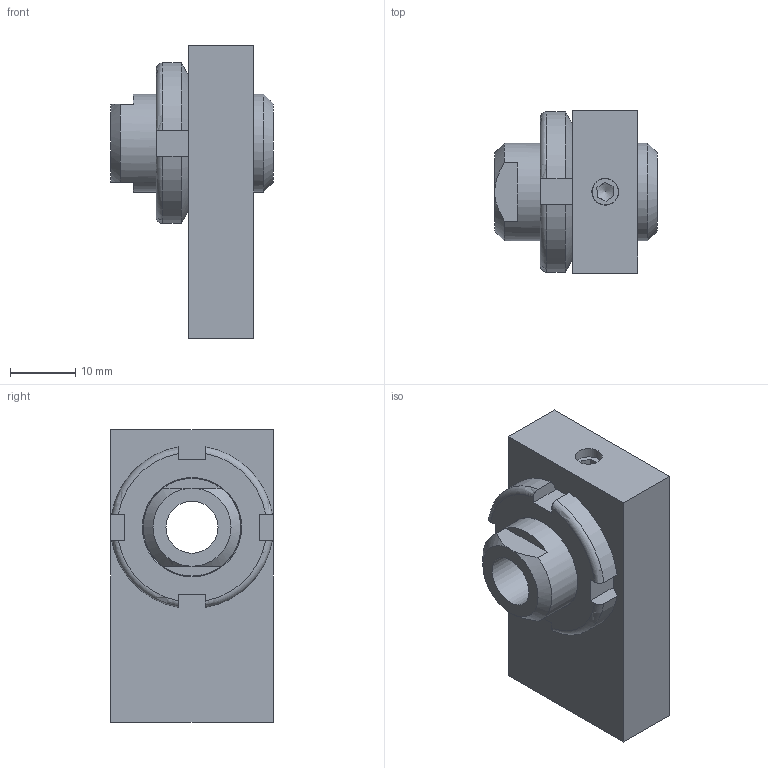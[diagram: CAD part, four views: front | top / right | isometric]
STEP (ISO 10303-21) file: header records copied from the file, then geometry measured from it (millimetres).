
FILE_DESCRIPTION(/* description */ (''),/* implementation_level */ '2;1');
FILE_NAME(/* name */ 'C:\Local Work Area\Progetti\AP\CALIBRI\03 Portacomparatore\03.55.stp',/* time_stamp */ '2015-04-01T09:22:07+02:00',/* author */ ('CAD5'),/* organization */ (''),/* preprocessor_version */ 'ST-DEVELOPER v15.2',/* originating_system */ 'Autodesk Inventor 2014',/* authorisation */ '');
FILE_SCHEMA (('AUTOMOTIVE_DESIGN { 1 0 10303 214 3 1 1 }'));
Length unit declared in the file: millimetre
Products named in the file (5): 03.57A; 03.56; Ghiera SKF M15x1 KM_2; VITE STEI M5x6 UNI5923; 03.55
Bounding box: 25 x 25 x 45 mm (x, y, z)
Volume: 13733.6 mm3; surface area: 7319.1 mm2
Topology: 4 solids, 4 shells, 64 faces, 160 edges, 104 vertices
Faces by surface type: plane 34, cone 15, cylinder 11, torus 4
Full cylindrical faces by diameter (mm): 4.134 x1, 4.917 x1, 5 x1, 8 x1, 13.917 x1, 15 x2
Entity records: 1958 total; most frequent: CARTESIAN_POINT 466, DIRECTION 290, ORIENTED_EDGE 276, EDGE_CURVE 138, AXIS2_PLACEMENT_3D 114, VERTEX_POINT 98, EDGE_LOOP 88, ADVANCED_FACE 64
